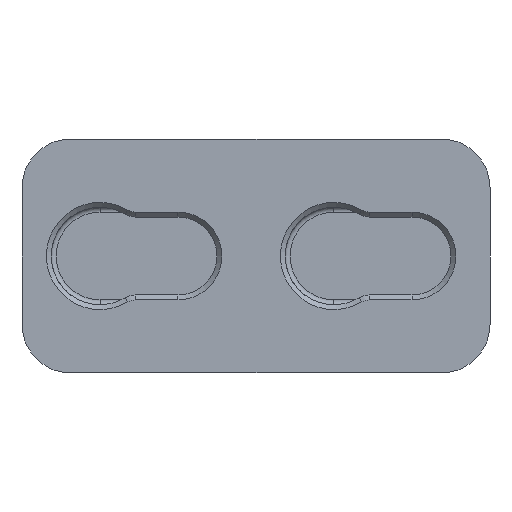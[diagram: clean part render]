
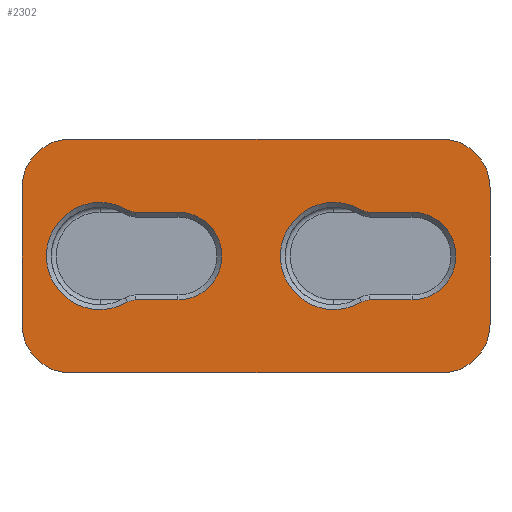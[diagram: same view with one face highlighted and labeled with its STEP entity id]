
A CAD part, front view. The second image highlights one B-rep face of the part: STEP entity #2302.
In plain terms, the highlighted planar face has unit normal (0, -1, 0).
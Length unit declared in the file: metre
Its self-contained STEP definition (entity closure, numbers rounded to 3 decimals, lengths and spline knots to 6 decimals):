
#129=CIRCLE('',#2429,0.005);
#130=CIRCLE('',#2431,0.005);
#131=CIRCLE('',#2434,0.005);
#132=CIRCLE('',#2437,0.005);
#172=CIRCLE('',#2529,0.0045);
#173=CIRCLE('',#2530,0.0015);
#174=CIRCLE('',#2531,0.0055);
#175=CIRCLE('',#2532,0.0015);
#176=CIRCLE('',#2533,0.0045);
#177=CIRCLE('',#2534,0.0015);
#178=CIRCLE('',#2535,0.0055);
#179=CIRCLE('',#2536,0.0015);
#660=ORIENTED_EDGE('',*,*,#1125,.T.);
#661=ORIENTED_EDGE('',*,*,#1126,.T.);
#662=ORIENTED_EDGE('',*,*,#1127,.T.);
#663=ORIENTED_EDGE('',*,*,#1128,.T.);
#664=ORIENTED_EDGE('',*,*,#1129,.T.);
#665=ORIENTED_EDGE('',*,*,#1130,.T.);
#666=ORIENTED_EDGE('',*,*,#1131,.T.);
#667=ORIENTED_EDGE('',*,*,#1132,.T.);
#668=ORIENTED_EDGE('',*,*,#1133,.T.);
#669=ORIENTED_EDGE('',*,*,#1134,.T.);
#670=ORIENTED_EDGE('',*,*,#1135,.T.);
#671=ORIENTED_EDGE('',*,*,#1136,.T.);
#672=ORIENTED_EDGE('',*,*,#1049,.T.);
#673=ORIENTED_EDGE('',*,*,#1017,.T.);
#674=ORIENTED_EDGE('',*,*,#1052,.T.);
#675=ORIENTED_EDGE('',*,*,#1054,.F.);
#676=ORIENTED_EDGE('',*,*,#1056,.T.);
#677=ORIENTED_EDGE('',*,*,#1058,.T.);
#678=ORIENTED_EDGE('',*,*,#1060,.T.);
#679=ORIENTED_EDGE('',*,*,#1061,.T.);
#1017=EDGE_CURVE('',#1336,#1335,#1548,.T.);
#1049=EDGE_CURVE('',#1354,#1336,#129,.F.);
#1052=EDGE_CURVE('',#1335,#1355,#130,.F.);
#1054=EDGE_CURVE('',#1356,#1355,#1569,.T.);
#1056=EDGE_CURVE('',#1356,#1357,#131,.F.);
#1058=EDGE_CURVE('',#1357,#1358,#1572,.T.);
#1060=EDGE_CURVE('',#1358,#1359,#132,.F.);
#1061=EDGE_CURVE('',#1359,#1354,#1574,.T.);
#1125=EDGE_CURVE('',#1384,#1385,#172,.F.);
#1126=EDGE_CURVE('',#1385,#1386,#1597,.T.);
#1127=EDGE_CURVE('',#1386,#1387,#173,.T.);
#1128=EDGE_CURVE('',#1387,#1388,#174,.F.);
#1129=EDGE_CURVE('',#1388,#1389,#175,.T.);
#1130=EDGE_CURVE('',#1389,#1384,#1598,.T.);
#1131=EDGE_CURVE('',#1390,#1391,#176,.F.);
#1132=EDGE_CURVE('',#1391,#1392,#1599,.T.);
#1133=EDGE_CURVE('',#1392,#1393,#177,.T.);
#1134=EDGE_CURVE('',#1393,#1394,#178,.F.);
#1135=EDGE_CURVE('',#1394,#1395,#179,.T.);
#1136=EDGE_CURVE('',#1395,#1390,#1600,.T.);
#1335=VERTEX_POINT('',#3603);
#1336=VERTEX_POINT('',#3605);
#1354=VERTEX_POINT('',#3664);
#1355=VERTEX_POINT('',#3668);
#1356=VERTEX_POINT('',#3672);
#1357=VERTEX_POINT('',#3676);
#1358=VERTEX_POINT('',#3680);
#1359=VERTEX_POINT('',#3684);
#1384=VERTEX_POINT('',#3833);
#1385=VERTEX_POINT('',#3834);
#1386=VERTEX_POINT('',#3836);
#1387=VERTEX_POINT('',#3838);
#1388=VERTEX_POINT('',#3840);
#1389=VERTEX_POINT('',#3842);
#1390=VERTEX_POINT('',#3845);
#1391=VERTEX_POINT('',#3846);
#1392=VERTEX_POINT('',#3848);
#1393=VERTEX_POINT('',#3850);
#1394=VERTEX_POINT('',#3852);
#1395=VERTEX_POINT('',#3854);
#1548=LINE('',#3604,#1753);
#1569=LINE('',#3673,#1774);
#1572=LINE('',#3681,#1777);
#1574=LINE('',#3687,#1779);
#1597=LINE('',#3835,#1802);
#1598=LINE('',#3843,#1803);
#1599=LINE('',#3847,#1804);
#1600=LINE('',#3855,#1805);
#1753=VECTOR('',#2808,1.);
#1774=VECTOR('',#2883,1.);
#1777=VECTOR('',#2892,1.);
#1779=VECTOR('',#2900,1.);
#1802=VECTOR('',#3105,1.);
#1803=VECTOR('',#3112,1.);
#1804=VECTOR('',#3115,1.);
#1805=VECTOR('',#3122,1.);
#1956=EDGE_LOOP('',(#660,#661,#662,#663,#664,#665));
#1957=EDGE_LOOP('',(#666,#667,#668,#669,#670,#671));
#1958=EDGE_LOOP('',(#672,#673,#674,#675,#676,#677,#678,#679));
#2102=FACE_BOUND('',#1956,.T.);
#2103=FACE_BOUND('',#1957,.T.);
#2104=FACE_BOUND('',#1958,.T.);
#2198=PLANE('',#2528);
#2302=ADVANCED_FACE('',(#2102,#2103,#2104),#2198,.T.);
#2429=AXIS2_PLACEMENT_3D('',#3663,#2872,#2873);
#2431=AXIS2_PLACEMENT_3D('',#3669,#2878,#2879);
#2434=AXIS2_PLACEMENT_3D('',#3677,#2887,#2888);
#2437=AXIS2_PLACEMENT_3D('',#3685,#2896,#2897);
#2528=AXIS2_PLACEMENT_3D('',#3831,#3101,#3102);
#2529=AXIS2_PLACEMENT_3D('',#3832,#3103,#3104);
#2530=AXIS2_PLACEMENT_3D('',#3837,#3106,#3107);
#2531=AXIS2_PLACEMENT_3D('',#3839,#3108,#3109);
#2532=AXIS2_PLACEMENT_3D('',#3841,#3110,#3111);
#2533=AXIS2_PLACEMENT_3D('',#3844,#3113,#3114);
#2534=AXIS2_PLACEMENT_3D('',#3849,#3116,#3117);
#2535=AXIS2_PLACEMENT_3D('',#3851,#3118,#3119);
#2536=AXIS2_PLACEMENT_3D('',#3853,#3120,#3121);
#2808=DIRECTION('',(0.,0.,-1.));
#2872=DIRECTION('',(0.,1.,0.));
#2873=DIRECTION('',(0.,0.,1.));
#2878=DIRECTION('',(0.,1.,0.));
#2879=DIRECTION('',(0.,0.,1.));
#2883=DIRECTION('',(-1.,0.,0.));
#2887=DIRECTION('',(0.,1.,0.));
#2888=DIRECTION('',(0.,0.,1.));
#2892=DIRECTION('',(0.,0.,1.));
#2896=DIRECTION('',(0.,1.,0.));
#2897=DIRECTION('',(0.,0.,1.));
#2900=DIRECTION('',(-1.,0.,0.));
#3101=DIRECTION('',(0.,-1.,0.));
#3102=DIRECTION('',(1.,0.,0.));
#3103=DIRECTION('',(0.,-1.,0.));
#3104=DIRECTION('',(0.,0.,-1.));
#3105=DIRECTION('',(-1.,0.,0.));
#3106=DIRECTION('',(0.,-1.,0.));
#3107=DIRECTION('',(0.,0.,-1.));
#3108=DIRECTION('',(0.,-1.,0.));
#3109=DIRECTION('',(0.,0.,-1.));
#3110=DIRECTION('',(0.,-1.,0.));
#3111=DIRECTION('',(0.,0.,-1.));
#3112=DIRECTION('',(1.,0.,0.));
#3113=DIRECTION('',(0.,-1.,0.));
#3114=DIRECTION('',(0.,0.,-1.));
#3115=DIRECTION('',(-1.,0.,0.));
#3116=DIRECTION('',(0.,-1.,0.));
#3117=DIRECTION('',(0.,0.,-1.));
#3118=DIRECTION('',(0.,-1.,0.));
#3119=DIRECTION('',(0.,0.,-1.));
#3120=DIRECTION('',(0.,-1.,0.));
#3121=DIRECTION('',(0.,0.,-1.));
#3122=DIRECTION('',(1.,0.,0.));
#3603=CARTESIAN_POINT('',(-0.006292,-0.011933,-0.000137));
#3604=CARTESIAN_POINT('',(-0.006292,-0.011933,0.006863));
#3605=CARTESIAN_POINT('',(-0.006292,-0.011933,0.013863));
#3663=CARTESIAN_POINT('',(-0.001292,-0.011933,0.013863));
#3664=CARTESIAN_POINT('',(-0.001292,-0.011933,0.018863));
#3668=CARTESIAN_POINT('',(-0.001292,-0.011933,-0.005137));
#3669=CARTESIAN_POINT('',(-0.001292,-0.011933,-0.000137));
#3672=CARTESIAN_POINT('',(0.036708,-0.011933,-0.005137));
#3673=CARTESIAN_POINT('',(0.017708,-0.011933,-0.005137));
#3676=CARTESIAN_POINT('',(0.041708,-0.011933,-0.000137));
#3677=CARTESIAN_POINT('',(0.036708,-0.011933,-0.000137));
#3680=CARTESIAN_POINT('',(0.041708,-0.011933,0.013863));
#3681=CARTESIAN_POINT('',(0.041708,-0.011933,0.006863));
#3684=CARTESIAN_POINT('',(0.036708,-0.011933,0.018863));
#3685=CARTESIAN_POINT('',(0.036708,-0.011933,0.013863));
#3687=CARTESIAN_POINT('',(0.017708,-0.011933,0.018863));
#3831=CARTESIAN_POINT('',(0.017708,-0.011933,0.006863));
#3832=CARTESIAN_POINT('',(0.033708,-0.011933,0.006863));
#3833=CARTESIAN_POINT('',(0.033708,-0.011933,0.011363));
#3834=CARTESIAN_POINT('',(0.033708,-0.011933,0.002363));
#3835=CARTESIAN_POINT('',(0.017708,-0.011933,0.002363));
#3836=CARTESIAN_POINT('',(0.029313,-0.011933,0.002363));
#3837=CARTESIAN_POINT('',(0.029313,-0.011933,0.000863));
#3838=CARTESIAN_POINT('',(0.028541,-0.011933,0.002148));
#3839=CARTESIAN_POINT('',(0.025708,-0.011933,0.006863));
#3840=CARTESIAN_POINT('',(0.028541,-0.011933,0.011577));
#3841=CARTESIAN_POINT('',(0.029313,-0.011933,0.012863));
#3842=CARTESIAN_POINT('',(0.029313,-0.011933,0.011363));
#3843=CARTESIAN_POINT('',(0.017708,-0.011933,0.011363));
#3844=CARTESIAN_POINT('',(0.009708,-0.011933,0.006863));
#3845=CARTESIAN_POINT('',(0.009708,-0.011933,0.011363));
#3846=CARTESIAN_POINT('',(0.009708,-0.011933,0.002363));
#3847=CARTESIAN_POINT('',(0.005313,-0.011933,0.002363));
#3848=CARTESIAN_POINT('',(0.005313,-0.011933,0.002363));
#3849=CARTESIAN_POINT('',(0.005313,-0.011933,0.000863));
#3850=CARTESIAN_POINT('',(0.004541,-0.011933,0.002148));
#3851=CARTESIAN_POINT('',(0.001708,-0.011933,0.006863));
#3852=CARTESIAN_POINT('',(0.004541,-0.011933,0.011577));
#3853=CARTESIAN_POINT('',(0.005313,-0.011933,0.012863));
#3854=CARTESIAN_POINT('',(0.005313,-0.011933,0.011363));
#3855=CARTESIAN_POINT('',(0.017708,-0.011933,0.011363));
